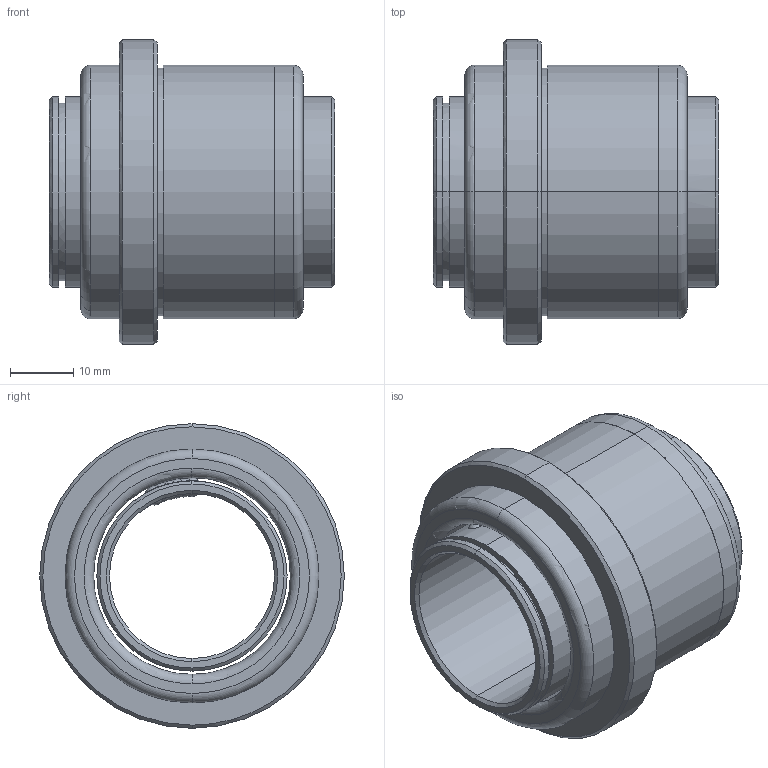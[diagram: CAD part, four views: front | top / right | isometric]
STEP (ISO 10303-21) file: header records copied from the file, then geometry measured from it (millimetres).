
FILE_DESCRIPTION(('CATIA V5 STEP Exchange'),'2;1');
FILE_NAME('C:\Users\Utente\Desktop\IO LAVORO\3D X SITO CF\X SITO\732\732-25.stp','2021-01-10T19:28:24+00:00',('none'),('none'),'CATIA Version 5 Release 20 GA (IN-10)','CATIA V5 STEP AP203','none');
FILE_SCHEMA(('CONFIG_CONTROL_DESIGN'));
Length unit declared in the file: millimetre
Products named in the file (1): 732-25
Assembly tree (2 placements, depth 2):
  732-25
    #58
    #1297
Bounding box: 45 x 48 x 48 mm (x, y, z)
Volume: 28348.3 mm3; surface area: 18162.3 mm2
Topology: 2 solids, 2 shells, 74 faces, 206 edges, 152 vertices
Faces by surface type: sphere 24, cylinder 20, cone 12, plane 10, torus 8
Entity records: 2958 total; most frequent: CARTESIAN_POINT 1023, ORIENTED_EDGE 412, DIRECTION 310, EDGE_CURVE 206, AXIS2_PLACEMENT_3D 198, VERTEX_POINT 152, CIRCLE 120, EDGE_LOOP 94
